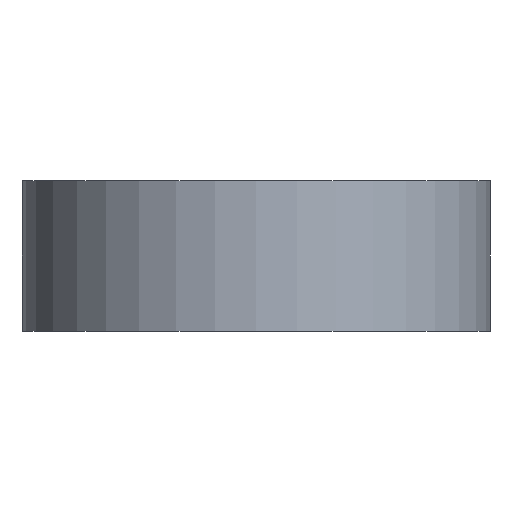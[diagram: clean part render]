
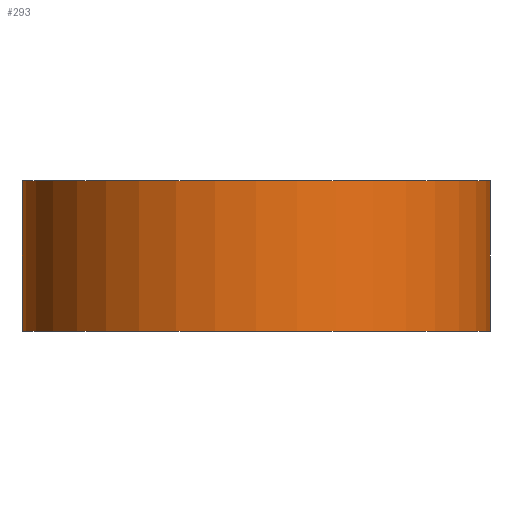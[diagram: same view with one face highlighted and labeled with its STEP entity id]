
A CAD part, left-side view. The second image highlights one B-rep face of the part: STEP entity #293.
In plain terms, the highlighted cylindrical face has radius 10.668 mm (diameter 21.336 mm), a partial arc.
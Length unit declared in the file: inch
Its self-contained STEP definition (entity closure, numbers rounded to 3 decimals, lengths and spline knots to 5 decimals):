
#37 = DIRECTION ( 'NONE',  ( 0., 0., 1. ) ) ;
#43 = DIRECTION ( 'NONE',  ( 1., 0., 0. ) ) ;
#51 = AXIS2_PLACEMENT_3D ( 'NONE', #692, #689, #688 ) ;
#56 = CARTESIAN_POINT ( 'NONE',  ( -0.625, 0., -0.09 ) ) ;
#79 = CYLINDRICAL_SURFACE ( 'NONE', #495, 0.42 ) ;
#95 = VERTEX_POINT ( 'NONE', #420 ) ;
#107 = CIRCLE ( 'NONE', #51, 0.42 ) ;
#112 = VECTOR ( 'NONE', #504, 39.37008 ) ;
#115 = LINE ( 'NONE', #427, #558 ) ;
#129 = CIRCLE ( 'NONE', #172, 0.42 ) ;
#138 = LINE ( 'NONE', #517, #112 ) ;
#172 = AXIS2_PLACEMENT_3D ( 'NONE', #473, #468, #481 ) ;
#238 = FACE_OUTER_BOUND ( 'NONE', #544, .T. ) ;
#240 = VERTEX_POINT ( 'NONE', #299 ) ;
#242 = ORIENTED_EDGE ( 'NONE', *, *, #663, .T. ) ;
#259 = VERTEX_POINT ( 'NONE', #296 ) ;
#293 = ADVANCED_FACE ( 'NONE', ( #238 ), #79, .T. ) ;
#296 = CARTESIAN_POINT ( 'NONE',  ( -0.625, -0.42, 0.18 ) ) ;
#299 = CARTESIAN_POINT ( 'NONE',  ( -0.625, 0.42, -0.09 ) ) ;
#419 = CARTESIAN_POINT ( 'NONE',  ( -0.625, -0.42, -0.09 ) ) ;
#420 = CARTESIAN_POINT ( 'NONE',  ( -0.625, 0.42, 0.18 ) ) ;
#423 = ORIENTED_EDGE ( 'NONE', *, *, #666, .F. ) ;
#427 = CARTESIAN_POINT ( 'NONE',  ( -0.625, 0.42, -0.09 ) ) ;
#432 = ORIENTED_EDGE ( 'NONE', *, *, #662, .T. ) ;
#440 = ORIENTED_EDGE ( 'NONE', *, *, #667, .F. ) ;
#468 = DIRECTION ( 'NONE',  ( 0., 0., 1. ) ) ;
#473 = CARTESIAN_POINT ( 'NONE',  ( -0.625, 0., -0.09 ) ) ;
#481 = DIRECTION ( 'NONE',  ( 1., 0., 0. ) ) ;
#485 = DIRECTION ( 'NONE',  ( 0., 0., 1. ) ) ;
#495 = AXIS2_PLACEMENT_3D ( 'NONE', #56, #37, #43 ) ;
#504 = DIRECTION ( 'NONE',  ( 0., 0., 1. ) ) ;
#517 = CARTESIAN_POINT ( 'NONE',  ( -0.625, -0.42, -0.09 ) ) ;
#544 = EDGE_LOOP ( 'NONE', ( #440, #423, #242, #432 ) ) ;
#558 = VECTOR ( 'NONE', #485, 39.37008 ) ;
#662 = EDGE_CURVE ( 'NONE', #695, #259, #138, .T. ) ;
#663 = EDGE_CURVE ( 'NONE', #240, #695, #129, .T. ) ;
#666 = EDGE_CURVE ( 'NONE', #240, #95, #115, .T. ) ;
#667 = EDGE_CURVE ( 'NONE', #95, #259, #107, .T. ) ;
#688 = DIRECTION ( 'NONE',  ( 1., 0., 0. ) ) ;
#689 = DIRECTION ( 'NONE',  ( 0., 0., 1. ) ) ;
#692 = CARTESIAN_POINT ( 'NONE',  ( -0.625, 0., 0.18 ) ) ;
#695 = VERTEX_POINT ( 'NONE', #419 ) ;
